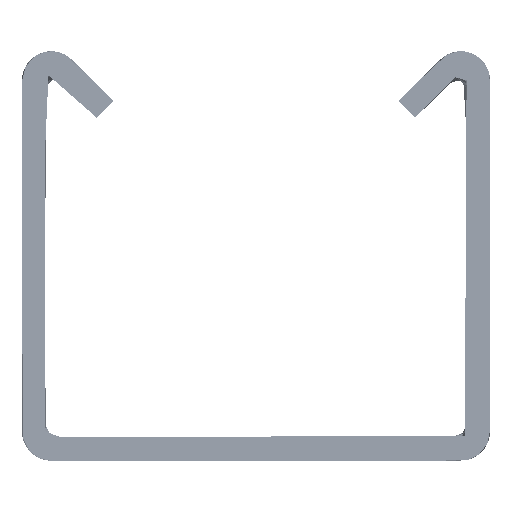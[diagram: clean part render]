
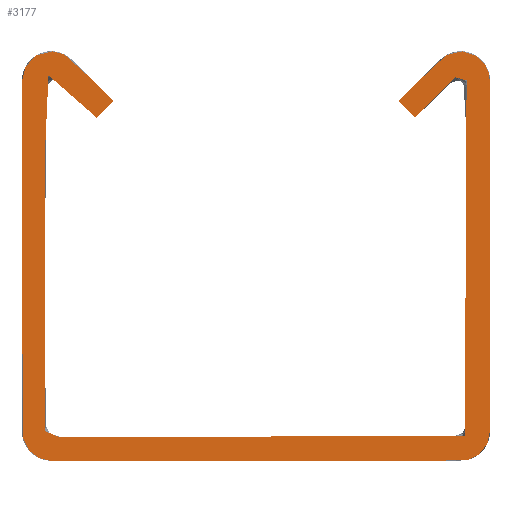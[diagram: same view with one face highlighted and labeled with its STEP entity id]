
A CAD part, front view. The second image highlights one B-rep face of the part: STEP entity #3177.
In plain terms, the highlighted planar face has unit normal (0, -1, 0).
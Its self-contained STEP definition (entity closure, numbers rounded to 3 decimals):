
#450=PLANE($,#12065);
#3177=ADVANCED_FACE($,(#3621),#450,.T.);
#3621=FACE_OUTER_BOUND($,#4497,.T.);
#4497=EDGE_LOOP($,(#6702,#6703,#6704,#6705));
#6702=ORIENTED_EDGE($,*,*,#8478,.T.);
#6703=ORIENTED_EDGE($,*,*,#8481,.T.);
#6704=ORIENTED_EDGE($,*,*,#8480,.T.);
#6705=ORIENTED_EDGE($,*,*,#8479,.T.);
#8478=EDGE_CURVE($,#9822,#9825,#10724,.T.);
#8479=EDGE_CURVE($,#9823,#9822,#12036,.T.);
#8480=EDGE_CURVE($,#9824,#9823,#10725,.T.);
#8481=EDGE_CURVE($,#9825,#9824,#12037,.T.);
#9822=VERTEX_POINT($,#37804);
#9823=VERTEX_POINT($,#37805);
#9824=VERTEX_POINT($,#37806);
#9825=VERTEX_POINT($,#37807);
#10724=B_SPLINE_CURVE_WITH_KNOTS($,1,(#37753,#37754),.UNSPECIFIED.,.F.,.F.,
(2,2),(0.,2.),.UNSPECIFIED.);
#10725=B_SPLINE_CURVE_WITH_KNOTS($,1,(#37778,#37779),.UNSPECIFIED.,.F.,.F.,
(2,2),(111.288,113.288),.UNSPECIFIED.);
#12036=(
BOUNDED_CURVE()
B_SPLINE_CURVE(2,(#37755,#37756,#37757,#37758,#37759,#37760,#37761,#37762,
#37763,#37764,#37765,#37766,#37767,#37768,#37769,#37770,#37771,#37772,#37773,
#37774,#37775,#37776,#37777),.UNSPECIFIED.,.F.,.F.)
B_SPLINE_CURVE_WITH_KNOTS((3,2,2,2,2,2,2,2,2,2,2,3),(113.288,118.469,
119.058,119.647,149.647,153.574,188.574,
192.501,222.501,223.09,223.679,228.86),
.UNSPECIFIED.)
CURVE()
GEOMETRIC_REPRESENTATION_ITEM()
RATIONAL_B_SPLINE_CURVE((1.,1.,1.,0.831,1.,0.831,
1.,1.,1.,0.707,1.,1.,1.,0.707,1.,1.,1.,0.831,
1.,0.831,1.,1.,1.))
REPRESENTATION_ITEM($)
);
#12037=(
BOUNDED_CURVE()
B_SPLINE_CURVE(2,(#37780,#37781,#37782,#37783,#37784,#37785,#37786,#37787,
#37788,#37789,#37790,#37791,#37792,#37793,#37794,#37795,#37796,#37797,#37798,
#37799,#37800,#37801,#37802),.UNSPECIFIED.,.F.,.F.)
B_SPLINE_CURVE_WITH_KNOTS((3,2,2,2,2,2,2,2,2,2,2,3),(2.,7.181,
7.77,8.359,38.359,39.144,74.144,
74.93,104.93,105.519,106.108,111.288),
.UNSPECIFIED.)
CURVE()
GEOMETRIC_REPRESENTATION_ITEM()
RATIONAL_B_SPLINE_CURVE((1.,1.,1.,0.831,1.,0.831,
1.,1.,1.,0.707,1.,1.,1.,0.707,1.,1.,1.,0.831,
1.,0.831,1.,1.,1.))
REPRESENTATION_ITEM($)
);
#12065=AXIS2_PLACEMENT_3D($,#37803,#12076,$);
#12076=DIRECTION($,(0.,-1.,0.));
#37753=CARTESIAN_POINT($,(12.197,0.,30.732));
#37754=CARTESIAN_POINT($,(13.611,0.,29.318));
#37755=CARTESIAN_POINT($,(-12.197,0.,30.732));
#37756=CARTESIAN_POINT($,(-13.964,0.,32.5));
#37757=CARTESIAN_POINT($,(-15.732,0.,34.268));
#37758=CARTESIAN_POINT($,(-16.913,0.,35.449));
#37759=CARTESIAN_POINT($,(-18.457,0.,34.81));
#37760=CARTESIAN_POINT($,(-20.,0.,34.17));
#37761=CARTESIAN_POINT($,(-20.,0.,32.5));
#37762=CARTESIAN_POINT($,(-20.,0.,17.5));
#37763=CARTESIAN_POINT($,(-20.,0.,2.5));
#37764=CARTESIAN_POINT($,(-20.,0.,0.));
#37765=CARTESIAN_POINT($,(-17.5,0.,0.));
#37766=CARTESIAN_POINT($,(0.,0.,0.));
#37767=CARTESIAN_POINT($,(17.5,0.,0.));
#37768=CARTESIAN_POINT($,(20.,0.,0.));
#37769=CARTESIAN_POINT($,(20.,0.,2.5));
#37770=CARTESIAN_POINT($,(20.,0.,17.5));
#37771=CARTESIAN_POINT($,(20.,0.,32.5));
#37772=CARTESIAN_POINT($,(20.,0.,34.17));
#37773=CARTESIAN_POINT($,(18.457,0.,34.81));
#37774=CARTESIAN_POINT($,(16.913,0.,35.449));
#37775=CARTESIAN_POINT($,(15.732,0.,34.268));
#37776=CARTESIAN_POINT($,(13.964,0.,32.5));
#37777=CARTESIAN_POINT($,(12.197,0.,30.732));
#37778=CARTESIAN_POINT($,(-13.611,0.,29.318));
#37779=CARTESIAN_POINT($,(-12.197,0.,30.732));
#37780=CARTESIAN_POINT($,(13.611,0.,29.318));
#37781=CARTESIAN_POINT($,(15.379,0.,31.086));
#37782=CARTESIAN_POINT($,(17.146,0.,32.854));
#37783=CARTESIAN_POINT($,(17.383,0.,33.09));
#37784=CARTESIAN_POINT($,(17.691,0.,32.962));
#37785=CARTESIAN_POINT($,(18.,0.,32.834));
#37786=CARTESIAN_POINT($,(18.,0.,32.5));
#37787=CARTESIAN_POINT($,(18.,0.,17.5));
#37788=CARTESIAN_POINT($,(18.,0.,2.5));
#37789=CARTESIAN_POINT($,(18.,0.,2.));
#37790=CARTESIAN_POINT($,(17.5,0.,2.));
#37791=CARTESIAN_POINT($,(0.,0.,2.));
#37792=CARTESIAN_POINT($,(-17.5,0.,2.));
#37793=CARTESIAN_POINT($,(-18.,0.,2.));
#37794=CARTESIAN_POINT($,(-18.,0.,2.5));
#37795=CARTESIAN_POINT($,(-18.,0.,17.5));
#37796=CARTESIAN_POINT($,(-18.,0.,32.5));
#37797=CARTESIAN_POINT($,(-18.,0.,32.834));
#37798=CARTESIAN_POINT($,(-17.691,0.,32.962));
#37799=CARTESIAN_POINT($,(-17.383,0.,33.09));
#37800=CARTESIAN_POINT($,(-17.146,0.,32.854));
#37801=CARTESIAN_POINT($,(-15.379,0.,31.086));
#37802=CARTESIAN_POINT($,(-13.611,0.,29.318));
#37803=CARTESIAN_POINT($,(-20.,0.,0.));
#37804=CARTESIAN_POINT($,(12.197,0.,30.732));
#37805=CARTESIAN_POINT($,(-12.197,0.,30.732));
#37806=CARTESIAN_POINT($,(-13.611,0.,29.318));
#37807=CARTESIAN_POINT($,(13.611,0.,29.318));
